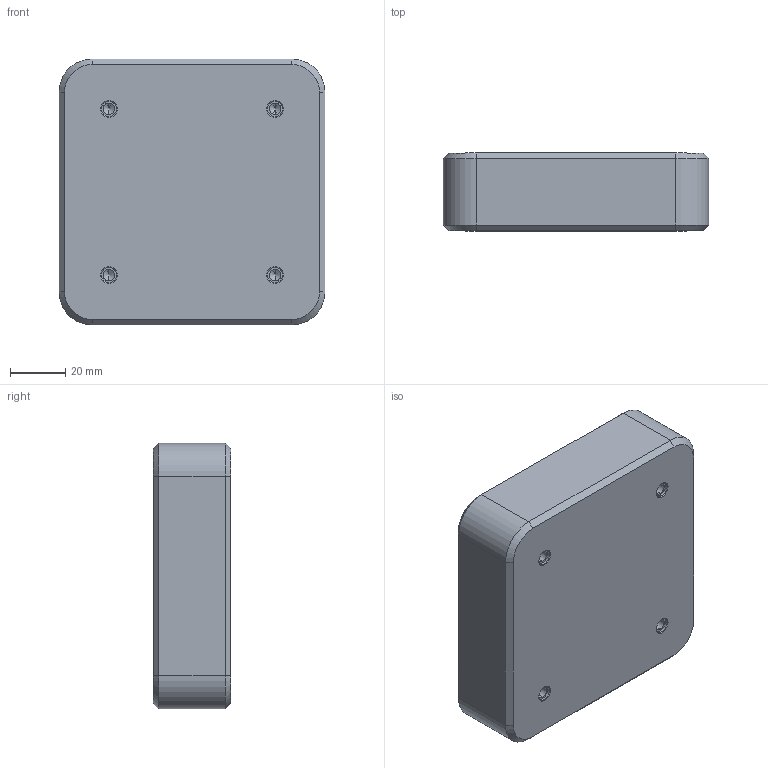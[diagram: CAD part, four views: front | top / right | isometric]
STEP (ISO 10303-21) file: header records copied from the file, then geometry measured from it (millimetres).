
FILE_DESCRIPTION (( 'STEP AP203' ), '1' );
FILE_NAME ('130329.0001.4V-QP022-A-100.STEP', '2016-10-10T08:51:00', ( '' ), ( '' ), 'SwSTEP 2.0', 'SolidWorks 2016', '' );
FILE_SCHEMA (( 'CONFIG_CONTROL_DESIGN' ));
Length unit declared in the file: millimetre
Products named in the file (1): 130329.0001.4V-QP022-A-100
Bounding box: 96 x 28 x 96 mm (x, y, z)
Volume: 252305.1 mm3; surface area: 28254.3 mm2
Topology: 1 solids, 1 shells, 62 faces, 136 edges, 76 vertices
Faces by surface type: cone 24, cylinder 20, plane 18
Entity records: 1701 total; most frequent: DIRECTION 310, CARTESIAN_POINT 267, ORIENTED_EDGE 256, EDGE_CURVE 128, AXIS2_PLACEMENT_3D 119, VERTEX_POINT 76, VECTOR 72, LINE 72
